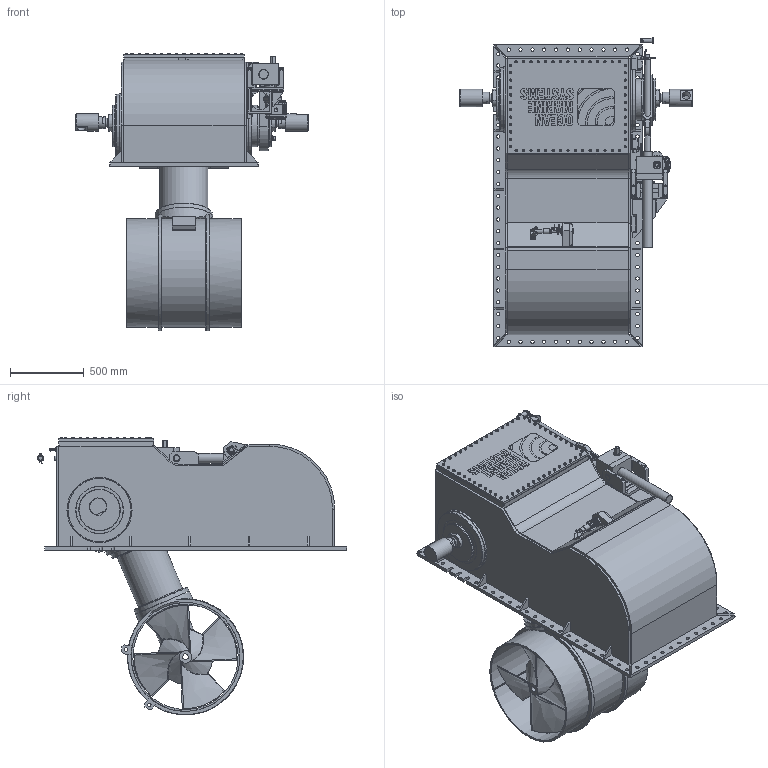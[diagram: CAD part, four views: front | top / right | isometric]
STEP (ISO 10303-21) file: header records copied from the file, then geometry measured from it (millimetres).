
FILE_DESCRIPTION(/* description */ (''),/* implementation_level */ '2;1');
FILE_NAME(/* name */ 'Q:\THRUSTERS\THRUSTER SALES & SUPPORT DOCS\THRUSTER Sales\H-S\H-0700-S\H-0700-S Deployed.stp',/* time_stamp */ '2021-01-26T12:25:56+00:00',/* author */ ('Barney.Webborn'),/* organization */ (''),/* preprocessor_version */ 'ST-DEVELOPER v17.2',/* originating_system */ 'Autodesk Inventor 2019',/* authorisation */ '');
FILE_SCHEMA (('AUTOMOTIVE_DESIGN { 1 0 10303 214 3 1 1 }'));
Length unit declared in the file: millimetre
Products named in the file (1): H-0700-S_Shrinkwrap_1
Bounding box: 1572 x 2089.93 x 1877.76 mm (x, y, z)
Volume: 218426324.1 mm3; surface area: 24977622.5 mm2
Topology: 13 solids, 13 shells, 5127 faces, 13782 edges, 9001 vertices
Faces by surface type: plane 2376, bspline 1152, cylinder 998, cone 328, torus 247, sphere 26
Full cylindrical faces by diameter (mm): 3 x3, 7.2 x2, 8 x1, 10 x58, 12 x1, 15.6 x1, 15.8 x16, 16 x78, 17 x2, 17.5 x1, 20 x4, 23 x66, 24 x4, 24.25 x1, 24.441 x1, 24.5 x2, 24.962 x1, 24.98 x1, 25 x2, 25.5 x1, 26.25 x1, 26.441 x2, 28 x1, 29.425 x1, 30 x2, 30.5 x1, 31.42 x1, 32 x1, 33.304 x1, 34.7 x1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
Entity records: 265068 total; most frequent: CARTESIAN_POINT 137469, ORIENTED_EDGE 27352, DIRECTION 22983, EDGE_CURVE 13676, VERTEX_POINT 9000, AXIS2_PLACEMENT_3D 8219, LINE 6545, VECTOR 6545
